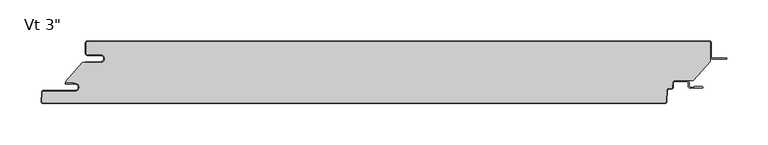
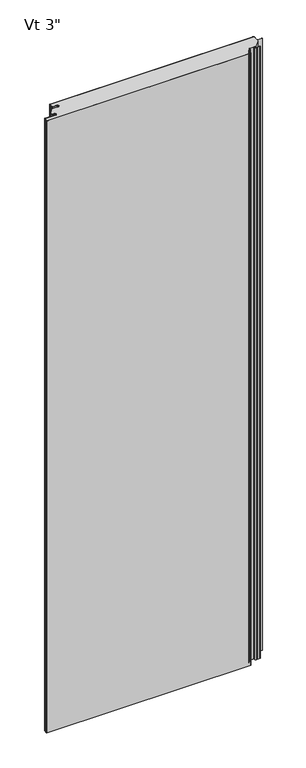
"""IFC4 building model written with IfcOpenShell, lengths in millimetres: plate geometry."""

from ifc_helpers import new_model, si_unit, point, frame, frame_2d, origin, origin_with_axes, place, context, project, spatial, polyline, circle_curve, ellipse_curve, trimmed, segment, composite_curve, outline, extrude, source, transform, mapped, element, save
from ifc_brep_helpers import plane_surface, cylinder_surface, revolved_surface, extruded_surface, advanced_brep


def plate_286a8e0f(model_context):
    return source(origin(), model_context, "Body", "SolidModel", [
        extrude(outline(composite_curve([segment(polyline([(-362.0437502, -16.4625), (-377.9187502, -16.4625)]), True, "CONTINUOUS"), segment(trimmed(circle_curve(frame_2d((-377.9187502, -15.08125)), 1.38125), [point((-377.9187502, -16.4625))], [point((-379.3000002, -15.08125))], False, "CARTESIAN"), True, "CONTINUOUS"), segment(polyline([(-379.3000002, -15.08125), (-379.3000002, -2.38125)]), True, "CONTINUOUS"), segment(trimmed(circle_curve(frame_2d((-377.9187502, -2.38125)), 1.38125), [point((-379.3000002, -2.38125))], [point((-377.9187502, -1.0))], False, "CARTESIAN"), True, "CONTINUOUS"), segment(polyline([(-377.9187502, -1.0), (377.7312498, -1.0)]), True, "CONTINUOUS"), segment(trimmed(circle_curve(frame_2d((377.7312498, -2.38125)), 1.38125), [point((377.7312498, -1.0))], [point((379.1124998, -2.38125))], False, "CARTESIAN"), True, "CONTINUOUS"), segment(polyline([(379.1124998, -2.38125), (379.1124998, -24.9057308), (358.2955432, -48.2125), (335.8540781, -48.2125)]), True, "CONTINUOUS"), segment(trimmed(circle_curve(frame_2d((335.8540781, -50.8)), 2.5875), [point((335.8540781, -48.2125))], [point((333.2701242, -50.6645807))], True, "CARTESIAN"), True, "CONTINUOUS"), segment(polyline([(333.2701242, -50.6645807), (332.9680479, -56.428539)]), True, "CONTINUOUS"), segment(trimmed(circle_curve(frame_2d((331.5886909, -56.35625)), 1.38125), [point((332.9680479, -56.428539))], [point((331.5886909, -57.7375))], False, "CARTESIAN"), True, "CONTINUOUS"), segment(polyline([(331.5886909, -57.7375), (328.5448845, -57.7375)]), True, "CONTINUOUS"), segment(trimmed(circle_curve(frame_2d((328.5448845, -60.325)), 2.5875), [point((328.5448845, -57.7375))], [point((325.9609306, -60.1895807))], True, "CARTESIAN"), True, "CONTINUOUS"), segment(polyline([(325.9609306, -60.1895807), (325.2428676, -73.891039)]), True, "CONTINUOUS"), segment(trimmed(circle_curve(frame_2d((323.8635105, -73.81875)), 1.38125), [point((325.2428676, -73.891039))], [point((323.8635105, -75.2))], False, "CARTESIAN"), True, "CONTINUOUS"), segment(polyline([(323.8635105, -75.2), (-431.7799537, -75.2)]), True, "CONTINUOUS"), segment(trimmed(circle_curve(frame_2d((-431.7799537, -73.81875)), 1.38125), [point((-431.7799537, -75.2))], [point((-433.1593107, -73.746461))], False, "CARTESIAN"), True, "CONTINUOUS"), segment(polyline([(-433.1593107, -73.746461), (-432.5769293, -62.633961)]), True, "CONTINUOUS"), segment(trimmed(circle_curve(frame_2d((-431.1975722, -62.70625)), 1.38125), [point((-432.5769293, -62.633961))], [point((-431.1975722, -61.325))], False, "CARTESIAN"), True, "CONTINUOUS"), segment(polyline([(-431.1975722, -61.325), (-393.0142676, -61.325)]), True, "CONTINUOUS"), segment(trimmed(circle_curve(frame_2d((-393.0142676, -56.35625)), 4.96875), [point((-393.0142676, -61.325))], [point((-393.0142676, -51.3875))], True, "CARTESIAN"), True, "CONTINUOUS"), segment(polyline([(-393.0142676, -51.3875), (-394.6017676, -51.59375), (-394.6017676, -50.8), (-404.1125002, -50.8), (-404.1125002, -49.2157227), (-384.2260924, -26.4), (-362.0437502, -26.4)]), True, "CONTINUOUS"), segment(trimmed(circle_curve(frame_2d((-362.0437502, -21.43125)), 4.96875), [point((-362.0437502, -26.4))], [point((-362.0437502, -16.4625))], True, "CARTESIAN"), True, "CONTINUOUS")], self_intersect=False)), origin_with_axes(), (0.0, 0.0, 1.0), 2400.0),
        extrude(outline(composite_curve([segment(polyline([(-380.3000002, -25.4), (-362.0437502, -25.4)]), True, "CONTINUOUS"), segment(trimmed(circle_curve(frame_2d((-362.0437502, -21.43125)), 3.96875), [point((-362.0437502, -25.4))], [point((-362.0437502, -17.4625))], True, "CARTESIAN"), True, "CONTINUOUS"), segment(polyline([(-362.0437502, -17.4625), (-377.9187502, -17.4625)]), True, "CONTINUOUS"), segment(trimmed(circle_curve(frame_2d((-377.9187502, -15.08125)), 2.38125), [point((-377.9187502, -17.4625))], [point((-380.3000002, -15.08125))], False, "CARTESIAN"), True, "CONTINUOUS"), segment(polyline([(-380.3000002, -15.08125), (-380.3000002, -2.38125)]), True, "CONTINUOUS"), segment(trimmed(circle_curve(frame_2d((-377.9187502, -2.38125)), 2.38125), [point((-380.3000002, -2.38125))], [point((-377.9187502, 0.0))], False, "CARTESIAN"), True, "CONTINUOUS"), segment(polyline([(-377.9187502, 0.0), (377.7312498, 0.0)]), True, "CONTINUOUS"), segment(trimmed(circle_curve(frame_2d((377.7312498, -2.38125)), 2.38125), [point((377.7312498, 0.0))], [point((380.1124998, -2.38125))], False, "CARTESIAN"), True, "CONTINUOUS"), segment(polyline([(380.1124998, -2.38125), (380.1124998, -19.446875)]), True, "CONTINUOUS"), segment(trimmed(circle_curve(frame_2d((381.6999998, -19.446875)), 1.5875), [point((380.1124998, -19.446875))], [point((381.6999998, -21.034375))], True, "CARTESIAN"), True, "CONTINUOUS"), segment(polyline([(381.6999998, -21.034375), (399.1624998, -21.034375), (399.1624998, -22.034375), (381.6999998, -22.034375)]), True, "CONTINUOUS"), segment(trimmed(circle_curve(frame_2d((381.6999998, -19.446875)), 2.5875), [point((381.6999998, -22.034375))], [point((379.1124998, -19.446875))], False, "CARTESIAN"), True, "CONTINUOUS"), segment(polyline([(379.1124998, -19.446875), (379.1124998, -2.38125)]), True, "CONTINUOUS"), segment(trimmed(circle_curve(frame_2d((377.7312498, -2.38125)), 1.38125), [point((379.1124998, -2.38125))], [point((377.7312498, -1.0))], True, "CARTESIAN"), True, "CONTINUOUS"), segment(polyline([(377.7312498, -1.0), (-377.9187502, -1.0)]), True, "CONTINUOUS"), segment(trimmed(circle_curve(frame_2d((-377.9187502, -2.38125)), 1.38125), [point((-377.9187502, -1.0))], [point((-379.3000002, -2.38125))], True, "CARTESIAN"), True, "CONTINUOUS"), segment(polyline([(-379.3000002, -2.38125), (-379.3000002, -15.08125)]), True, "CONTINUOUS"), segment(trimmed(circle_curve(frame_2d((-377.9187502, -15.08125)), 1.38125), [point((-379.3000002, -15.08125))], [point((-377.9187502, -16.4625))], True, "CARTESIAN"), True, "CONTINUOUS"), segment(polyline([(-377.9187502, -16.4625), (-362.0437502, -16.4625)]), True, "CONTINUOUS"), segment(trimmed(circle_curve(frame_2d((-362.0437502, -21.43125)), 4.96875), [point((-362.0437502, -16.4625))], [point((-362.0437502, -26.4))], False, "CARTESIAN"), True, "CONTINUOUS"), segment(polyline([(-362.0437502, -26.4), (-380.3000002, -26.4), (-380.3000002, -25.4)]), True, "CONTINUOUS")], self_intersect=False)), origin_with_axes(), (0.0, 0.0, 1.0), 2400.0),
        advanced_brep(
        [(-404.3252051, -50.8, 2400.0), (-404.3252051, -52.3875, 2400.0), (-393.0142676, -52.3875, 2400.0), (-393.0142676, -60.325, 2400.0), (-431.1975722, -60.325, 2400.0), (-433.5755588, -62.581625, 2400.0), (-434.1579402, -73.694125, 2400.0), (-431.7799537, -76.2, 2400.0), (323.8635105, -76.2, 2400.0), (326.2414971, -73.943375, 2400.0), (326.9595601, -60.2419167, 2400.0), (328.5448845, -58.7375, 2400.0), (331.5886909, -58.7375, 2400.0), (333.9666775, -56.480875, 2400.0), (334.2687537, -50.7169167, 2400.0), (335.8540781, -49.2125, 2400.0), (350.7294824, -49.2125, 2400.0), (352.3169824, -50.8, 2400.0), (352.3169824, -54.9671875, 2400.0), (354.6982324, -57.3484375, 2400.0), (369.189853, -57.3484375, 2400.0), (369.189853, -55.5546875, 2400.0), (359.4607324, -55.5546875, 2400.0), (359.4607324, -56.3484375, 2400.0), (354.6982324, -56.3484375, 2400.0), (353.3169824, -54.9671875, 2400.0), (353.3169824, -50.8, 2400.0), (350.7294824, -48.2125, 2400.0), (335.8540781, -48.2125, 2400.0), (333.2701242, -50.6645807, 2400.0), (332.9680479, -56.428539, 2400.0), (331.5886909, -57.7375, 2400.0), (328.5448845, -57.7375, 2400.0), (325.9609306, -60.1895807, 2400.0), (325.2428676, -73.891039, 2400.0), (323.8635105, -75.2, 2400.0), (-431.7799537, -75.2, 2400.0), (-433.1593107, -73.746461, 2400.0), (-432.5769293, -62.633961, 2400.0), (-431.1975722, -61.325, 2400.0), (-393.0142676, -61.325, 2400.0), (-393.0142676, -51.3875, 2400.0), (-394.6017676, -51.59375, 2400.0), (-394.6017676, -50.8, 2400.0), (-404.3252051, -50.8, 0.0), (-394.6017676, -50.8, 0.0), (-394.6017676, -51.59375, 0.0), (-393.0142676, -51.3875, 0.0), (-393.0142676, -61.325, 0.0), (-431.1975722, -61.325, 0.0), (-432.5769293, -62.633961, 0.0), (-433.1593107, -73.746461, 0.0), (-431.7799537, -75.2, 0.0), (323.8635105, -75.2, 0.0), (325.2428676, -73.891039, 0.0), (325.9609306, -60.1895807, 0.0), (328.5448845, -57.7375, 0.0), (331.5886909, -57.7375, 0.0), (332.9680479, -56.428539, 0.0), (333.2701242, -50.6645807, 0.0), (335.8540781, -48.2125, 0.0), (350.7294824, -48.2125, 0.0), (353.3169824, -50.8, 0.0), (353.3169824, -54.9671875, 0.0), (354.6982324, -56.3484375, 0.0), (359.4607324, -56.3484375, 0.0), (359.4607324, -55.5546875, 0.0), (369.189853, -55.5546875, 0.0), (369.189853, -57.3484375, 0.0), (354.6982324, -57.3484375, 0.0), (352.3169824, -54.9671875, 0.0), (352.3169824, -50.8, 0.0), (350.7294824, -49.2125, 0.0), (335.8540781, -49.2125, 0.0), (334.2687537, -50.7169167, 0.0), (333.9666775, -56.480875, 0.0), (331.5886909, -58.7375, 0.0), (328.5448845, -58.7375, 0.0), (326.9595601, -60.2419167, 0.0), (326.2414971, -73.943375, 0.0), (323.8635105, -76.2, 0.0), (-431.7799537, -76.2, 0.0), (-434.1579402, -73.694125, 0.0), (-433.5755588, -62.581625, 0.0), (-431.1975722, -60.325, 0.0), (-393.0142676, -60.325, 0.0), (-393.0142676, -52.3875, 0.0), (-404.3252051, -52.3875, 0.0)],
        [
            (0, 1, circle_curve(frame((-404.3252051, -51.59375, 2400.0), z_axis=(0.0, 0.0, 1.0), x_axis=(1.0, 0.0, 0.0)), 0.79375)),
            (1, 2),
            (2, 3, circle_curve(frame((-393.0142676, -56.35625, 2400.0), z_axis=(0.0, 0.0, -1.0), x_axis=(1.0, 0.0, 0.0)), 3.96875)),
            (3, 4),
            (4, 5, circle_curve(frame((-431.1975722, -62.70625, 2400.0), z_axis=(0.0, 0.0, 1.0), x_axis=(1.0, 0.0, 0.0)), 2.38125)),
            (5, 6),
            (6, 7, circle_curve(frame((-431.7799537, -73.81875, 2400.0), z_axis=(0.0, 0.0, 1.0), x_axis=(1.0, 0.0, 0.0)), 2.38125)),
            (7, 8),
            (8, 9, circle_curve(frame((323.8635105, -73.81875, 2400.0), z_axis=(0.0, 0.0, 1.0), x_axis=(1.0, 0.0, 0.0)), 2.38125)),
            (9, 10),
            (10, 11, circle_curve(frame((328.5448845, -60.325, 2400.0), z_axis=(0.0, 0.0, -1.0), x_axis=(1.0, 0.0, 0.0)), 1.5875)),
            (11, 12),
            (12, 13, circle_curve(frame((331.5886909, -56.35625, 2400.0), z_axis=(0.0, 0.0, 1.0), x_axis=(1.0, 0.0, 0.0)), 2.38125)),
            (13, 14),
            (14, 15, circle_curve(frame((335.8540781, -50.8, 2400.0), z_axis=(0.0, 0.0, -1.0), x_axis=(1.0, 0.0, 0.0)), 1.5875)),
            (15, 16),
            (16, 17, circle_curve(frame((350.7294824, -50.8, 2400.0), z_axis=(0.0, 0.0, -1.0), x_axis=(1.0, 0.0, 0.0)), 1.5875)),
            (17, 18),
            (18, 19, circle_curve(frame((354.6982324, -54.9671875, 2400.0), z_axis=(0.0, 0.0, 1.0), x_axis=(1.0, 0.0, 0.0)), 2.38125)),
            (19, 20),
            (20, 21, ellipse_curve(frame((369.189853, -56.4515625, 2400.0), z_axis=(0.0, 0.0, 1.0), x_axis=(0.0, 1.0, 0.0)), 0.896875, 0.7852275)),
            (21, 22),
            (22, 23),
            (23, 24),
            (24, 25, circle_curve(frame((354.6982324, -54.9671875, 2400.0), z_axis=(0.0, 0.0, -1.0), x_axis=(1.0, 0.0, 0.0)), 1.38125)),
            (25, 26),
            (26, 27, circle_curve(frame((350.7294824, -50.8, 2400.0), z_axis=(0.0, 0.0, 1.0), x_axis=(1.0, 0.0, 0.0)), 2.5875)),
            (27, 28),
            (28, 29, circle_curve(frame((335.8540781, -50.8, 2400.0), z_axis=(0.0, 0.0, 1.0), x_axis=(1.0, 0.0, 0.0)), 2.5875)),
            (29, 30),
            (30, 31, circle_curve(frame((331.5886909, -56.35625, 2400.0), z_axis=(0.0, 0.0, -1.0), x_axis=(1.0, 0.0, 0.0)), 1.38125)),
            (31, 32),
            (32, 33, circle_curve(frame((328.5448845, -60.325, 2400.0), z_axis=(0.0, 0.0, 1.0), x_axis=(1.0, 0.0, 0.0)), 2.5875)),
            (33, 34),
            (34, 35, circle_curve(frame((323.8635105, -73.81875, 2400.0), z_axis=(0.0, 0.0, -1.0), x_axis=(1.0, 0.0, 0.0)), 1.38125)),
            (35, 36),
            (36, 37, circle_curve(frame((-431.7799537, -73.81875, 2400.0), z_axis=(0.0, 0.0, -1.0), x_axis=(1.0, 0.0, 0.0)), 1.38125)),
            (37, 38),
            (38, 39, circle_curve(frame((-431.1975722, -62.70625, 2400.0), z_axis=(0.0, 0.0, -1.0), x_axis=(1.0, 0.0, 0.0)), 1.38125)),
            (39, 40),
            (40, 41, circle_curve(frame((-393.0142676, -56.35625, 2400.0), z_axis=(0.0, 0.0, 1.0), x_axis=(1.0, 0.0, 0.0)), 4.96875)),
            (41, 42),
            (42, 43),
            (43, 0),
            (44, 45),
            (45, 46),
            (46, 47),
            (47, 48, circle_curve(frame((-393.0142676, -56.35625, 0.0), z_axis=(0.0, 0.0, -1.0), x_axis=(1.0, 0.0, 0.0)), 4.96875)),
            (48, 49),
            (49, 50, circle_curve(frame((-431.1975722, -62.70625, 0.0), z_axis=(0.0, 0.0, 1.0), x_axis=(1.0, 0.0, 0.0)), 1.38125)),
            (50, 51),
            (51, 52, circle_curve(frame((-431.7799537, -73.81875, 0.0), z_axis=(0.0, 0.0, 1.0), x_axis=(1.0, 0.0, 0.0)), 1.38125)),
            (52, 53),
            (53, 54, circle_curve(frame((323.8635105, -73.81875, 0.0), z_axis=(0.0, 0.0, 1.0), x_axis=(1.0, 0.0, 0.0)), 1.38125)),
            (54, 55),
            (55, 56, circle_curve(frame((328.5448845, -60.325, 0.0), z_axis=(0.0, 0.0, -1.0), x_axis=(1.0, 0.0, 0.0)), 2.5875)),
            (56, 57),
            (57, 58, circle_curve(frame((331.5886909, -56.35625, 0.0), z_axis=(0.0, 0.0, 1.0), x_axis=(1.0, 0.0, 0.0)), 1.38125)),
            (58, 59),
            (59, 60, circle_curve(frame((335.8540781, -50.8, 0.0), z_axis=(0.0, 0.0, -1.0), x_axis=(1.0, 0.0, 0.0)), 2.5875)),
            (60, 61),
            (61, 62, circle_curve(frame((350.7294824, -50.8, 0.0), z_axis=(0.0, 0.0, -1.0), x_axis=(1.0, 0.0, 0.0)), 2.5875)),
            (62, 63),
            (63, 64, circle_curve(frame((354.6982324, -54.9671875, 0.0), z_axis=(0.0, 0.0, 1.0), x_axis=(1.0, 0.0, 0.0)), 1.38125)),
            (64, 65),
            (65, 66),
            (66, 67),
            (67, 68, ellipse_curve(frame((369.189853, -56.4515625, 0.0), z_axis=(0.0, 0.0, -1.0), x_axis=(0.0, 1.0, 0.0)), 0.896875, 0.7852275)),
            (68, 69),
            (69, 70, circle_curve(frame((354.6982324, -54.9671875, 0.0), z_axis=(0.0, 0.0, -1.0), x_axis=(1.0, 0.0, 0.0)), 2.38125)),
            (70, 71),
            (71, 72, circle_curve(frame((350.7294824, -50.8, 0.0), z_axis=(0.0, 0.0, 1.0), x_axis=(1.0, 0.0, 0.0)), 1.5875)),
            (72, 73),
            (73, 74, circle_curve(frame((335.8540781, -50.8, 0.0), z_axis=(0.0, 0.0, 1.0), x_axis=(1.0, 0.0, 0.0)), 1.5875)),
            (74, 75),
            (75, 76, circle_curve(frame((331.5886909, -56.35625, 0.0), z_axis=(0.0, 0.0, -1.0), x_axis=(1.0, 0.0, 0.0)), 2.38125)),
            (76, 77),
            (77, 78, circle_curve(frame((328.5448845, -60.325, 0.0), z_axis=(0.0, 0.0, 1.0), x_axis=(1.0, 0.0, 0.0)), 1.5875)),
            (78, 79),
            (79, 80, circle_curve(frame((323.8635105, -73.81875, 0.0), z_axis=(0.0, 0.0, -1.0), x_axis=(1.0, 0.0, 0.0)), 2.38125)),
            (80, 81),
            (81, 82, circle_curve(frame((-431.7799537, -73.81875, 0.0), z_axis=(0.0, 0.0, -1.0), x_axis=(1.0, 0.0, 0.0)), 2.38125)),
            (82, 83),
            (83, 84, circle_curve(frame((-431.1975722, -62.70625, 0.0), z_axis=(0.0, 0.0, -1.0), x_axis=(1.0, 0.0, 0.0)), 2.38125)),
            (84, 85),
            (85, 86, circle_curve(frame((-393.0142676, -56.35625, 0.0), z_axis=(0.0, 0.0, 1.0), x_axis=(1.0, 0.0, 0.0)), 3.96875)),
            (86, 87),
            (87, 44, circle_curve(frame((-404.3252051, -51.59375, 0.0), z_axis=(0.0, 0.0, -1.0), x_axis=(1.0, 0.0, 0.0)), 0.79375)),
            (20, 68),
            (67, 21),
            (66, 22),
            (65, 23),
            (41, 47),
            (46, 42),
            (45, 43),
            (40, 48),
            (39, 49),
            (38, 50),
            (37, 51),
            (33, 55),
            (54, 34),
            (32, 56),
            (31, 57),
            (30, 58),
            (29, 59),
            (28, 60),
            (64, 24),
            (63, 25),
            (62, 26),
            (61, 27),
            (18, 70),
            (69, 19),
            (17, 71),
            (16, 72),
            (15, 73),
            (14, 74),
            (13, 75),
            (12, 76),
            (11, 77),
            (10, 78),
            (9, 79),
            (5, 83),
            (82, 6),
            (4, 84),
            (3, 85),
            (2, 86),
            (1, 87),
            (0, 44),
            (36, 52),
            (35, 53),
            (8, 80),
            (7, 81),
        ],
        [
            plane_surface(frame((-0.0937502, -76.2, 2400.0), z_axis=(0.0, 0.0, 1.0), x_axis=(0.0, -1.0, 0.0))),
            plane_surface(frame((-0.0937502, -76.2, 0.0), z_axis=(0.0, 0.0, -1.0), x_axis=(0.0, -1.0, 0.0))),
            extruded_surface(trimmed(ellipse_curve(frame((369.189853, -56.4515625, 2400.0), z_axis=(0.0, 0.0, -1.0), x_axis=(0.0, 1.0, 0.0)), 0.896875, 0.7852275), [point((369.189853, -55.5546875, 2400.0))], [point((369.189853, -57.3484375, 2400.0))], True, "CARTESIAN"), (0.0, 0.0, -2400.0), 2400.0),
            plane_surface(frame((359.4607324, -55.5546875, 2400.0), z_axis=(0.0, 1.0, 0.0), x_axis=(0.0, 0.0, -1.0))),
            plane_surface(frame((359.4607324, -56.3484375, 2400.0), z_axis=(-1.0, 0.0, 0.0), x_axis=(0.0, 0.0, -1.0))),
            plane_surface(frame((-394.6017676, -51.59375, 2400.0), z_axis=(-0.12883844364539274, 0.9916655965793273, 0.0), x_axis=(0.0, 0.0, -1.0))),
            plane_surface(frame((-394.6017676, -50.8, 2400.0), z_axis=(1.0, 0.0, 0.0), x_axis=(0.0, 0.0, -1.0))),
            cylinder_surface(frame((-393.0142676, -56.35625, 2400.0), z_axis=(0.0, 0.0, 1.0), x_axis=(1.0, 0.0, 0.0)), 4.96875),
            plane_surface(frame((-393.0142676, -61.325, 2400.0), z_axis=(0.0, -1.0, 0.0), x_axis=(0.0, 0.0, -1.0))),
            revolved_surface(polyline([(-429.8163222, -62.70625, 0.0), (-429.8163222, -62.70625, 2400.0)]), (-431.1975722, -62.70625, 2400.0), (0.0, 0.0, -1.0)),
            plane_surface(frame((-432.5769293, -62.633961, 2400.0), z_axis=(0.9986295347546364, -0.05233595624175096, 0.0), x_axis=(0.0, 0.0, -1.0))),
            plane_surface(frame((325.2428676, -73.891039, 2400.0), z_axis=(-0.9986295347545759, 0.05233595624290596, 0.0), x_axis=(0.0, 0.0, -1.0))),
            cylinder_surface(frame((328.5448845, -60.325, 2400.0), z_axis=(0.0, 0.0, 1.0), x_axis=(1.0, 0.0, 0.0)), 2.5875),
            plane_surface(frame((328.5448845, -57.7375, 2400.0), z_axis=(0.0, 1.0, 0.0), x_axis=(0.0, 0.0, -1.0))),
            revolved_surface(polyline([(332.96994090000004, -56.35625, 0.0), (332.96994090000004, -56.35625, 2400.0)]), (331.5886909, -56.35625, 2400.0), (0.0, 0.0, -1.0)),
            plane_surface(frame((332.9680479, -56.428539, 2400.0), z_axis=(-0.998629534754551, 0.05233595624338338, 0.0), x_axis=(0.0, 0.0, -1.0))),
            cylinder_surface(frame((335.8540781, -50.8, 2400.0), z_axis=(0.0, 0.0, 1.0), x_axis=(1.0, 0.0, 0.0)), 2.5875),
            plane_surface(frame((354.6982324, -56.3484375, 2400.0), z_axis=(0.0, 1.0, 0.0), x_axis=(0.0, 0.0, -1.0))),
            revolved_surface(polyline([(356.0794824, -54.9671875, 0.0), (356.0794824, -54.9671875, 2400.0)]), (354.6982324, -54.9671875, 2400.0), (0.0, 0.0, -1.0)),
            plane_surface(frame((353.3169824, -50.8, 2400.0), z_axis=(1.0, 0.0, 0.0), x_axis=(0.0, 0.0, -1.0))),
            cylinder_surface(frame((350.7294824, -50.8, 2400.0), z_axis=(0.0, 0.0, 1.0), x_axis=(1.0, 0.0, 0.0)), 2.5875),
            plane_surface(frame((335.8540781, -48.2125, 2400.0), z_axis=(0.0, 1.0, 0.0), x_axis=(0.0, 0.0, -1.0))),
            cylinder_surface(frame((354.6982324, -54.9671875, 2400.0), z_axis=(0.0, 0.0, 1.0), x_axis=(1.0, 0.0, 0.0)), 2.38125),
            plane_surface(frame((352.3169824, -54.9671875, 2400.0), z_axis=(-1.0, 0.0, 0.0), x_axis=(0.0, 0.0, -1.0))),
            revolved_surface(polyline([(352.3169824, -50.8, 0.0), (352.3169824, -50.8, 2400.0)]), (350.7294824, -50.8, 2400.0), (0.0, 0.0, -1.0)),
            plane_surface(frame((350.7294824, -49.2125, 2400.0), z_axis=(0.0, -1.0, 0.0), x_axis=(0.0, 0.0, -1.0))),
            revolved_surface(polyline([(337.44157809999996, -50.8, 0.0), (337.44157809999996, -50.8, 2400.0)]), (335.8540781, -50.8, 2400.0), (0.0, 0.0, -1.0)),
            plane_surface(frame((334.2687537, -50.7169167, 2400.0), z_axis=(0.9986295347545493, -0.05233595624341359, 0.0), x_axis=(0.0, 0.0, -1.0))),
            cylinder_surface(frame((331.5886909, -56.35625, 2400.0), z_axis=(0.0, 0.0, 1.0), x_axis=(1.0, 0.0, 0.0)), 2.38125),
            plane_surface(frame((331.5886909, -58.7375, 2400.0), z_axis=(0.0, -1.0, 0.0), x_axis=(0.0, 0.0, -1.0))),
            revolved_surface(polyline([(330.1323845, -60.325, 0.0), (330.1323845, -60.325, 2400.0)]), (328.5448845, -60.325, 2400.0), (0.0, 0.0, -1.0)),
            plane_surface(frame((326.9595601, -60.2419167, 2400.0), z_axis=(0.9986295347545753, -0.052335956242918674, 0.0), x_axis=(0.0, 0.0, -1.0))),
            plane_surface(frame((-434.1579402, -73.694125, 2400.0), z_axis=(-0.9986295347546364, 0.05233595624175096, 0.0), x_axis=(0.0, 0.0, -1.0))),
            cylinder_surface(frame((-431.1975722, -62.70625, 2400.0), z_axis=(0.0, 0.0, 1.0), x_axis=(1.0, 0.0, 0.0)), 2.38125),
            plane_surface(frame((-431.1975722, -60.325, 2400.0), z_axis=(0.0, 1.0, 0.0), x_axis=(0.0, 0.0, -1.0))),
            revolved_surface(polyline([(-389.0455176, -56.35625, 0.0), (-389.0455176, -56.35625, 2400.0)]), (-393.0142676, -56.35625, 2400.0), (0.0, 0.0, -1.0)),
            plane_surface(frame((-393.0142676, -52.3875, 2400.0), z_axis=(0.0, -1.0, 0.0), x_axis=(0.0, 0.0, -1.0))),
            cylinder_surface(frame((-404.3252051, -51.59375, 2400.0), z_axis=(0.0, 0.0, 1.0), x_axis=(1.0, 0.0, 0.0)), 0.79375),
            plane_surface(frame((-404.3252051, -50.8, 2400.0), z_axis=(0.0, 1.0, 0.0), x_axis=(0.0, 0.0, -1.0))),
            revolved_surface(polyline([(-430.3987037, -73.81875, 0.0), (-430.3987037, -73.81875, 2400.0)]), (-431.7799537, -73.81875, 2400.0), (0.0, 0.0, -1.0)),
            plane_surface(frame((-431.7799537, -75.2, 2400.0), z_axis=(0.0, 1.0, 0.0), x_axis=(0.0, 0.0, -1.0))),
            revolved_surface(polyline([(325.24476050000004, -73.81875, 0.0), (325.24476050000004, -73.81875, 2400.0)]), (323.8635105, -73.81875, 2400.0), (0.0, 0.0, -1.0)),
            plane_surface(frame((369.189853, -57.3484375, 2400.0), z_axis=(0.0, -1.0, 0.0), x_axis=(0.0, 0.0, -1.0))),
            cylinder_surface(frame((323.8635105, -73.81875, 2400.0), z_axis=(0.0, 0.0, 1.0), x_axis=(1.0, 0.0, 0.0)), 2.38125),
            plane_surface(frame((323.8635105, -76.2, 2400.0), z_axis=(0.0, -1.0, 0.0), x_axis=(0.0, 0.0, -1.0))),
            cylinder_surface(frame((-431.7799537, -73.81875, 2400.0), z_axis=(0.0, 0.0, 1.0), x_axis=(1.0, 0.0, 0.0)), 2.38125),
        ],
        [
            (0, [[1, 2, 3, 4, 5, 6, 7, 8, 9, 10, 11, 12, 13, 14, 15, 16, 17, 18, 19, 20, 21, 22, 23, 24, 25, 26, 27, 28, 29, 30, 31, 32, 33, 34, 35, 36, 37, 38, 39, 40, 41, 42, 43, 44]]),
            (1, [[45, 46, 47, 48, 49, 50, 51, 52, 53, 54, 55, 56, 57, 58, 59, 60, 61, 62, 63, 64, 65, 66, 67, 68, 69, 70, 71, 72, 73, 74, 75, 76, 77, 78, 79, 80, 81, 82, 83, 84, 85, 86, 87, 88]]),
            (2, [[89, -68, 90, -21]]),
            (3, [[-90, -67, 91, -22]]),
            (4, [[-91, -66, 92, -23]]),
            (5, [[93, -47, 94, -42]]),
            (6, [[-94, -46, 95, -43]]),
            (7, [[96, -48, -93, -41]]),
            (8, [[97, -49, -96, -40]]),
            (9, [[98, -50, -97, -39]]),
            (10, [[99, -51, -98, -38]]),
            (11, [[100, -55, 101, -34]]),
            (12, [[102, -56, -100, -33]]),
            (13, [[103, -57, -102, -32]]),
            (14, [[104, -58, -103, -31]]),
            (15, [[105, -59, -104, -30]]),
            (16, [[106, -60, -105, -29]]),
            (17, [[-92, -65, 107, -24]]),
            (18, [[-107, -64, 108, -25]]),
            (19, [[-108, -63, 109, -26]]),
            (20, [[-109, -62, 110, -27]]),
            (21, [[-110, -61, -106, -28]]),
            (22, [[111, -70, 112, -19]]),
            (23, [[113, -71, -111, -18]]),
            (24, [[114, -72, -113, -17]]),
            (25, [[115, -73, -114, -16]]),
            (26, [[116, -74, -115, -15]]),
            (27, [[117, -75, -116, -14]]),
            (28, [[118, -76, -117, -13]]),
            (29, [[119, -77, -118, -12]]),
            (30, [[120, -78, -119, -11]]),
            (31, [[121, -79, -120, -10]]),
            (32, [[122, -83, 123, -6]]),
            (33, [[124, -84, -122, -5]]),
            (34, [[125, -85, -124, -4]]),
            (35, [[126, -86, -125, -3]]),
            (36, [[127, -87, -126, -2]]),
            (37, [[128, -88, -127, -1]]),
            (38, [[-95, -45, -128, -44]]),
            (39, [[129, -52, -99, -37]]),
            (40, [[130, -53, -129, -36]]),
            (41, [[-101, -54, -130, -35]]),
            (42, [[-112, -69, -89, -20]]),
            (43, [[131, -80, -121, -9]]),
            (44, [[132, -81, -131, -8]]),
            (45, [[-123, -82, -132, -7]]),
        ],
    ),
    ])


if __name__ == "__main__":
    model = new_model("IFC4")
    model_context = context("Model", 3, world=origin())
    ifc_project = project(units=[si_unit("LENGTHUNIT", "METRE", prefix="MILLI")], contexts=[model_context])
    site = spatial("IfcSite", under=ifc_project)
    building = spatial("IfcBuilding", under=site)
    placement = place(None, origin())
    plate_shape = plate_286a8e0f(model_context)
    element("IfcPlate", 1, ObjectType="KIP-30-DWTR-R19-CP-Vt-F : Vt 3\"", at=placement, inside=building, context=model_context, shape_type="MappedRepresentation", body=[
        mapped(plate_shape, transform((0.0, 0.0, 0.0), x_axis=(1.0, 0.0, 0.0), y_axis=(0.0, 1.0, 0.0), z_axis=(0.0, 0.0, 1.0))),
    ])
    save(model, "model.ifc")
